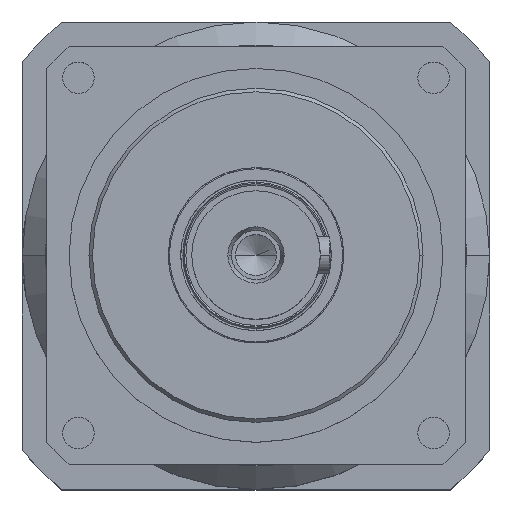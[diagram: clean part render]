
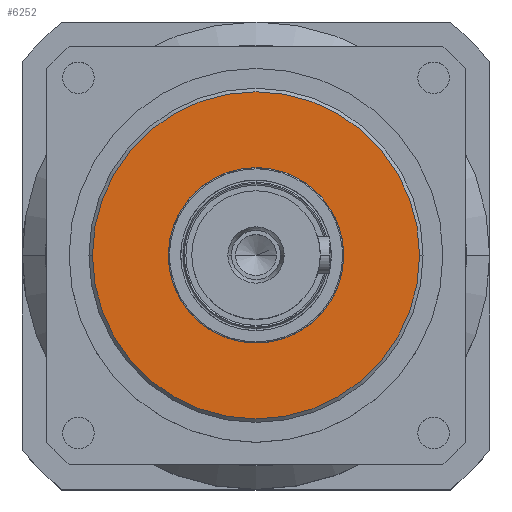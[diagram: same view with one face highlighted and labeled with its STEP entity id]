
A CAD part, top view. The second image highlights one B-rep face of the part: STEP entity #6252.
In plain terms, the highlighted planar face has unit normal (0, 0, 1).
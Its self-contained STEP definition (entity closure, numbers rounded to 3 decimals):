
#871 = CIRCLE ( 'NONE', #32925, 70. ) ;
#2894 = VERTEX_POINT ( 'NONE', #5127 ) ;
#3975 = DIRECTION ( 'NONE',  ( 0., 0., 1. ) ) ;
#4328 = VERTEX_POINT ( 'NONE', #9328 ) ;
#5127 = CARTESIAN_POINT ( 'NONE',  ( -70., 0., 0. ) ) ;
#6252 = ADVANCED_FACE ( 'NONE', ( #9071, #10030 ), #33451, .F. ) ;
#6795 = EDGE_CURVE ( 'NONE', #2894, #37825, #871, .T. ) ;
#7791 = CIRCLE ( 'NONE', #13660, 37.5 ) ;
#9071 = FACE_OUTER_BOUND ( 'NONE', #11503, .T. ) ;
#9328 = CARTESIAN_POINT ( 'NONE',  ( 37.5, 0., 0. ) ) ;
#9662 = CARTESIAN_POINT ( 'NONE',  ( 0., 0., 0. ) ) ;
#10030 = FACE_BOUND ( 'NONE', #34967, .T. ) ;
#11251 = AXIS2_PLACEMENT_3D ( 'NONE', #15166, #18287, #39677 ) ;
#11503 = EDGE_LOOP ( 'NONE', ( #18261, #38244 ) ) ;
#11898 = CARTESIAN_POINT ( 'NONE',  ( 0., 0., 0. ) ) ;
#12747 = DIRECTION ( 'NONE',  ( -1., 0., 0. ) ) ;
#13508 = ORIENTED_EDGE ( 'NONE', *, *, #16695, .F. ) ;
#13660 = AXIS2_PLACEMENT_3D ( 'NONE', #33052, #14799, #36232 ) ;
#14799 = DIRECTION ( 'NONE',  ( 0., 0., 1. ) ) ;
#14940 = DIRECTION ( 'NONE',  ( -1., 0., 0. ) ) ;
#15166 = CARTESIAN_POINT ( 'NONE',  ( 0., 70., 0. ) ) ;
#15454 = EDGE_CURVE ( 'NONE', #37825, #2894, #15660, .T. ) ;
#15600 = CIRCLE ( 'NONE', #34768, 37.5 ) ;
#15660 = CIRCLE ( 'NONE', #22709, 70. ) ;
#15671 = CARTESIAN_POINT ( 'NONE',  ( 70., 0., 0. ) ) ;
#16695 = EDGE_CURVE ( 'NONE', #4328, #29498, #15600, .T. ) ;
#18261 = ORIENTED_EDGE ( 'NONE', *, *, #6795, .F. ) ;
#18287 = DIRECTION ( 'NONE',  ( 0., 0., -1. ) ) ;
#22270 = CARTESIAN_POINT ( 'NONE',  ( 0., 0., 0. ) ) ;
#22709 = AXIS2_PLACEMENT_3D ( 'NONE', #11898, #33199, #14940 ) ;
#24069 = CARTESIAN_POINT ( 'NONE',  ( -37.5, 0., 0. ) ) ;
#25315 = DIRECTION ( 'NONE',  ( 1., 0., 0. ) ) ;
#29498 = VERTEX_POINT ( 'NONE', #24069 ) ;
#30963 = DIRECTION ( 'NONE',  ( 0., 0., -1. ) ) ;
#32925 = AXIS2_PLACEMENT_3D ( 'NONE', #9662, #30963, #12747 ) ;
#33052 = CARTESIAN_POINT ( 'NONE',  ( 0., 0., 0. ) ) ;
#33199 = DIRECTION ( 'NONE',  ( 0., 0., -1. ) ) ;
#33451 = PLANE ( 'NONE',  #11251 ) ;
#34768 = AXIS2_PLACEMENT_3D ( 'NONE', #22270, #3975, #25315 ) ;
#34967 = EDGE_LOOP ( 'NONE', ( #13508, #39636 ) ) ;
#36232 = DIRECTION ( 'NONE',  ( 1., 0., 0. ) ) ;
#37825 = VERTEX_POINT ( 'NONE', #15671 ) ;
#38244 = ORIENTED_EDGE ( 'NONE', *, *, #15454, .F. ) ;
#39318 = EDGE_CURVE ( 'NONE', #29498, #4328, #7791, .T. ) ;
#39636 = ORIENTED_EDGE ( 'NONE', *, *, #39318, .F. ) ;
#39677 = DIRECTION ( 'NONE',  ( -1., 0., 0. ) ) ;
